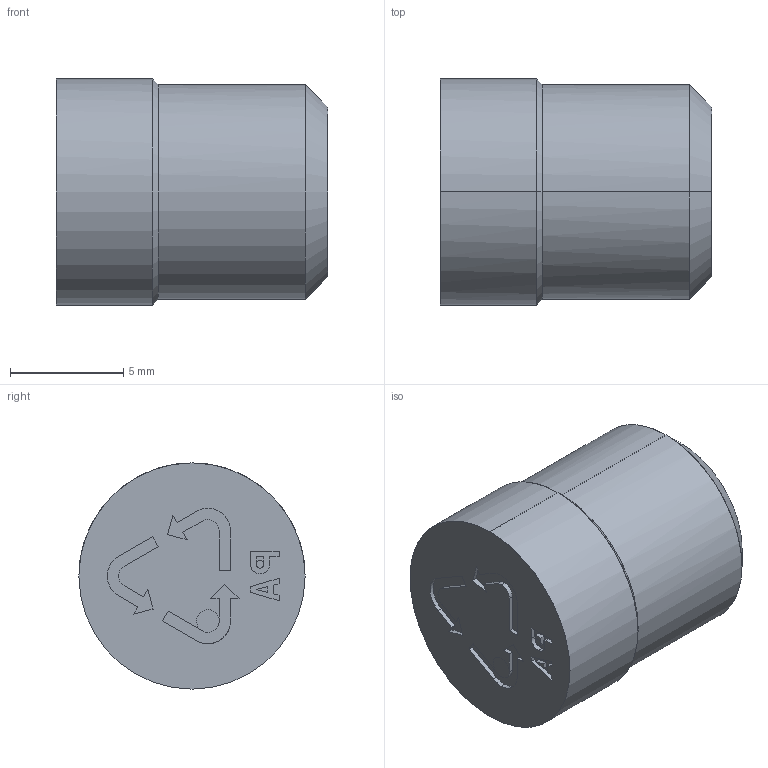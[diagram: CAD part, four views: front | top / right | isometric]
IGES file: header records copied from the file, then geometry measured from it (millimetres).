
Start section: START RECORD GO HERE.
Global section: file name: MPA10.igs; native system: DASSAULT SYSTEMES CATIA V5 R20 - www.3ds.com; preprocessor: CATIA Version 5 Release 20 ; author: Utente; organization: NB04-ASUS; date: 20210326.152504; units: millimetre
Bounding box: 12 x 10 x 10 mm (x, y, z)
Surface area: 574.3 mm2 (no closed solid volume)
Topology: 0 solids, 0 shells, 83 faces, 458 edges, 452 vertices
Faces by surface type: plane 55, revolution 28
